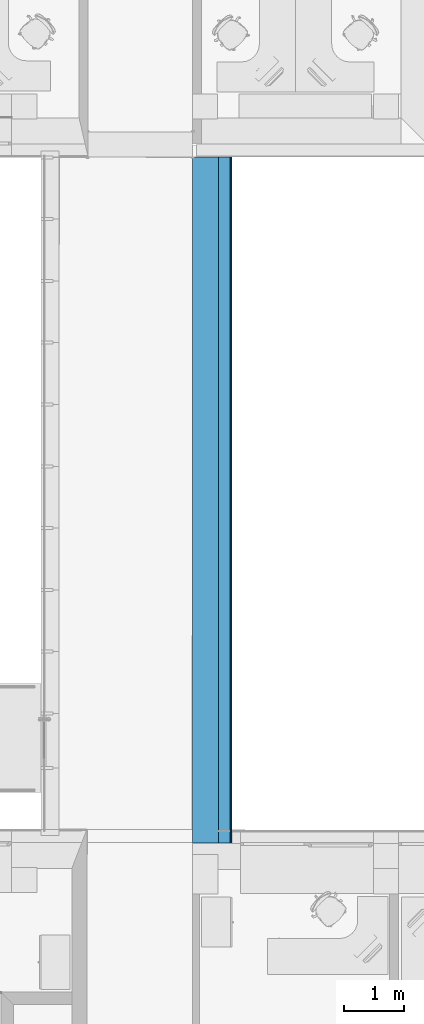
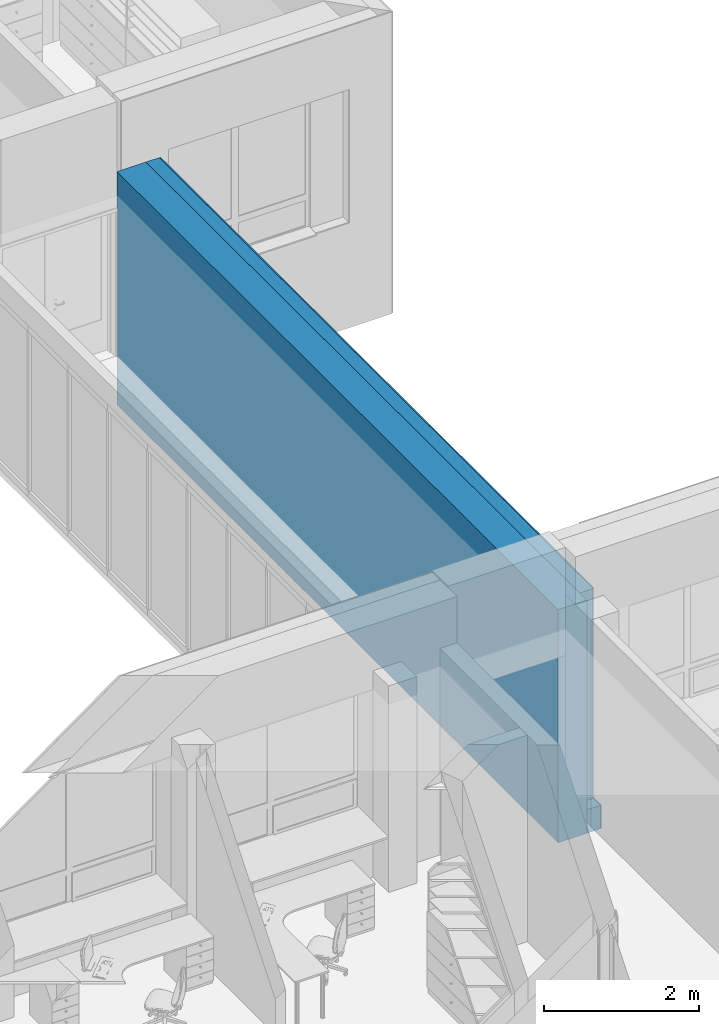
# One storey, part 94 of 194: 3 building element parts, 1 element without a shape of its own.
"""IFC2X3 building model written with IfcOpenShell, lengths in millimetres."""

from ifc_helpers import new_model, entity, si_unit, converted_unit, derived_unit, money_unit, direction, frame, origin_with_axes, place, context, subcontext, project, spatial, polyline, outline, extrude, boolean, faceted_brep, material, type_object, element, aggregate, save


model = new_model("IFC2X3")

# Units and contexts
model_context = context("Model", 3, precision=1e-05, world=origin_with_axes(), true_north=direction((0.0, 1.0)))
body_context = subcontext(model_context, "Body", "Model", "MODEL_VIEW")
ifc_project = project(units=[si_unit("LENGTHUNIT", "METRE", prefix="MILLI"), si_unit("AREAUNIT", "SQUARE_METRE"), si_unit("VOLUMEUNIT", "CUBIC_METRE"), converted_unit("PLANEANGLEUNIT", "DEGREE", entity("IfcPlaneAngleMeasure", 0.0174532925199), si_unit("PLANEANGLEUNIT", "RADIAN"), dimensions=[0, 0, 0, 0, 0, 0, 0]), si_unit("SOLIDANGLEUNIT", "STERADIAN"), money_unit("EUR"), converted_unit("TIMEUNIT", "Year", entity("IfcTimeMeasure", 31556926.0), si_unit("TIMEUNIT", "SECOND"), dimensions=[0, 0, 1, 0, 0, 0, 0]), si_unit("MASSUNIT", "GRAM", prefix="KILO"), si_unit("THERMODYNAMICTEMPERATUREUNIT", "DEGREE_CELSIUS"), si_unit("LUMINOUSINTENSITYUNIT", "LUMEN"), si_unit("ENERGYUNIT", "JOULE", prefix="MEGA"), derived_unit("THERMALCONDUCTANCEUNIT", [(si_unit("POWERUNIT", "WATT"), 1), (si_unit("LENGTHUNIT", "METRE"), -1), (si_unit("THERMODYNAMICTEMPERATUREUNIT", "KELVIN"), -1)]), derived_unit("SPECIFICHEATCAPACITYUNIT", [(si_unit("ENERGYUNIT", "JOULE"), 1), (si_unit("MASSUNIT", "GRAM", prefix="KILO"), -1), (si_unit("THERMODYNAMICTEMPERATUREUNIT", "KELVIN"), -1)]), derived_unit("MASSDENSITYUNIT", [(si_unit("MASSUNIT", "GRAM", prefix="KILO"), 1), (si_unit("VOLUMEUNIT", "CUBIC_METRE"), -1)])], contexts=[model_context])

# Site, building, storey
site_placement = place(None, origin_with_axes())
site = spatial("IfcSite", under=ifc_project, at=site_placement, Name="Site", CompositionType="ELEMENT")
building_placement = place(site_placement, origin_with_axes())
building = spatial("IfcBuilding", under=site, at=building_placement, Name="Building", CompositionType="ELEMENT")
storey_placement = place(building_placement, frame((0.0, 0.0, 3000.0), z_axis=(0.0, 0.0, 1.0), x_axis=(1.0, 0.0, 0.0)))
storey = spatial("IfcBuildingStorey", under=building, at=storey_placement, Name="2 KORRUS", CompositionType="ELEMENT", Elevation=3000.0)

# Wall, building element parts
wall_type = type_object("IfcWallType", Name="VS4", PredefinedType="NOTDEFINED")
wall_placement = place(storey_placement, frame((40163.283195, 58909.2083294, -769.162035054), z_axis=(0.0, 0.0, 1.0), x_axis=(8.70104470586e-05, -0.999999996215, 0.0)))
wall = element("IfcWall", 1, at=wall_placement, inside=storey, type_object=wall_type, Name="VS4")
ifc_material_1 = material(Name="Tellis - Konstuktsioon")
building_element_part_1_placement = place(wall_placement, origin_with_axes())
building_element_part_1 = element("IfcBuildingElementPart", 2, at=building_element_part_1_placement, material=ifc_material_1, Name="Tellis - Konstuktsioon", context=body_context, shape_type="CSG", body=[
    boolean("DIFFERENCE", boolean("DIFFERENCE", boolean("DIFFERENCE", boolean("DIFFERENCE", boolean("DIFFERENCE", boolean("DIFFERENCE", extrude(outline(polyline([(-430.017710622, -430.0), (12036.9016243, -430.0), (12036.9016243, -1.13686837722e-10), (-430.017710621, -1.13686837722e-10), (-430.017710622, -430.0)])), origin_with_axes(), (0.0, 0.0, 1.0), 3669.16203505), faceted_brep([(220.143937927, -430.0, 3669.16203505), (220.181397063, -1.13686837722e-10, 3669.16203505), (-430.01771062, -2.27373675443e-10, 3669.16203505), (-430.017710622, -430.0, 3669.16203505), (220.143828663, -430.0, 3632.41181379), (220.181243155, -2.27373675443e-10, 3617.39588291), (220.181243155, -2.27373675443e-10, 0.0), (-430.01771062, -2.27373675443e-10, 0.0), (-430.017710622, -430.0, 0.0), (220.143828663, -430.0, 0.0)], [[[0, 1, 2, 3]], [[1, 0, 4, 5]], [[5, 6, 7, 2, 1]], [[2, 7, 8, 3]], [[4, 0, 3, 8, 9]], [[9, 6, 5, 4]], [[6, 9, 8, 7]]])), faceted_brep([(11592.9751777, -1.13686837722e-10, 3617.32747269), (11592.9753318, -1.13686837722e-10, 3669.16203505), (12036.9016243, -2.27373675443e-10, 3669.16203505), (12036.9016243, -2.27373675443e-10, 0.0), (11592.9751777, -1.13686837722e-10, 0.0), (11592.9378726, -430.0, 3669.16203505), (11592.9377632, -430.0, 3632.34340357), (12036.9016243, -430.0, 3669.16203505), (12036.9016243, -430.0, 0.0), (11592.9377632, -430.0, 0.0)], [[[0, 1, 2, 3, 4]], [[5, 1, 0, 6]], [[1, 5, 7, 2]], [[7, 8, 3, 2]], [[9, 4, 3, 8]], [[0, 4, 9, 6]], [[6, 9, 8, 7, 5]]])), faceted_brep([(220.181397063, -1.13686837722e-10, 3669.16203505), (220.198819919, 200.0, 3669.16203505), (-430.017710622, 200.0, 3669.16203505), (-430.01771062, -2.27373675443e-10, 3669.16203505), (220.181243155, -2.27373675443e-10, 3617.39588291), (220.198645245, 200.0, 3610.41172901), (220.198645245, 200.0, 0.0), (-430.017710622, 200.0, 0.0), (-430.01771062, -2.27373675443e-10, 0.0), (220.181243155, -2.27373675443e-10, 0.0)], [[[0, 1, 2, 3]], [[1, 0, 4, 5]], [[5, 6, 7, 2, 1]], [[2, 7, 8, 3]], [[4, 0, 3, 8, 9]], [[9, 6, 5, 4]], [[6, 9, 8, 7]]])), faceted_brep([(11406.8998817, 200.0, 369.162035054), (11406.8998817, 200.0, 3669.16203505), (12036.9016243, 200.0, 3669.16203505), (12036.9016243, 200.0, 0.0), (11592.9925797, 200.0, 0.0), (11592.9925797, 200.0, 369.162035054), (11406.8824796, -1.13686837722e-10, 3669.16203505), (11406.8824796, -1.13686837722e-10, 369.162035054), (12036.9016243, -2.27373675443e-10, 3669.16203505), (12036.9016243, -2.27373675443e-10, 0.0), (11592.9751777, -1.13686837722e-10, 0.0), (11592.9751777, -1.13686837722e-10, 369.162035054)], [[[0, 1, 2, 3, 4, 5]], [[6, 1, 0, 7]], [[1, 6, 8, 2]], [[8, 9, 3, 2]], [[10, 4, 3, 9]], [[4, 10, 11, 5]], [[11, 7, 0, 5]], [[11, 10, 9, 8, 6, 7]]])), faceted_brep([(220.198819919, 200.0, 3669.16203505), (220.200562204, 220.0, 3669.16203505), (-430.017710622, 220.0, 3669.16203505), (-430.017710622, 200.0, 3669.16203505), (220.200385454, 220.0, 3609.71331362), (220.198645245, 200.0, 3610.41172901), (220.200385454, 220.0, 0.0), (-430.017710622, 220.0, 0.0), (-430.017710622, 200.0, 0.0), (220.198645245, 200.0, 0.0)], [[[0, 1, 2, 3]], [[4, 1, 0, 5]], [[4, 6, 7, 2, 1]], [[2, 7, 8, 3]], [[5, 0, 3, 8, 9]], [[6, 4, 5, 9]], [[6, 9, 8, 7]]])), faceted_brep([(11386.9016219, 220.0, 369.162035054), (11386.9016219, 220.0, 3669.16203505), (12036.9016243, 220.0, 3669.16203505), (12036.9016243, 220.0, 0.0), (11592.99432, 220.0, 0.0), (11592.99432, 220.0, 369.162035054), (11386.8998816, 200.0, 3669.16203505), (11386.8998816, 200.0, 369.162035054), (12036.9016243, 200.0, 3669.16203505), (12036.9016243, 200.0, 0.0), (11592.9925797, 200.0, 0.0), (11592.9925797, 200.0, 369.162035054)], [[[0, 1, 2, 3, 4, 5]], [[6, 1, 0, 7]], [[1, 6, 8, 2]], [[8, 9, 3, 2]], [[10, 4, 3, 9]], [[5, 4, 10, 11]], [[0, 5, 11, 7]], [[11, 10, 9, 8, 6, 7]]])),
])
ifc_material_2 = material(Name="Soojustus - Plastik Kõva")
building_element_part_2_placement = place(wall_placement, origin_with_axes())
building_element_part_2 = element("IfcBuildingElementPart", 3, at=building_element_part_2_placement, material=ifc_material_2, Name="Soojustus - Plastik Kõva", context=body_context, shape_type="CSG", body=[
    boolean("DIFFERENCE", boolean("DIFFERENCE", boolean("DIFFERENCE", boolean("DIFFERENCE", boolean("DIFFERENCE", boolean("DIFFERENCE", extrude(outline(polyline([(-430.017710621, -1.13686837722e-10), (12036.9016243, -1.13686837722e-10), (12036.9016243, 200.0), (-430.017710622, 200.0), (-430.017710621, -1.13686837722e-10)])), origin_with_axes(), (0.0, 0.0, 1.0), 3669.16203505), faceted_brep([(220.143937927, -430.0, 3669.16203505), (220.181397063, -1.13686837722e-10, 3669.16203505), (-430.01771062, -2.27373675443e-10, 3669.16203505), (-430.017710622, -430.0, 3669.16203505), (220.143828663, -430.0, 3632.41181379), (220.181243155, -2.27373675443e-10, 3617.39588291), (220.181243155, -2.27373675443e-10, 0.0), (-430.01771062, -2.27373675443e-10, 0.0), (-430.017710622, -430.0, 0.0), (220.143828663, -430.0, 0.0)], [[[0, 1, 2, 3]], [[1, 0, 4, 5]], [[5, 6, 7, 2, 1]], [[2, 7, 8, 3]], [[4, 0, 3, 8, 9]], [[9, 6, 5, 4]], [[6, 9, 8, 7]]])), faceted_brep([(11592.9751777, -1.13686837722e-10, 3617.32747269), (11592.9753318, -1.13686837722e-10, 3669.16203505), (12036.9016243, -2.27373675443e-10, 3669.16203505), (12036.9016243, -2.27373675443e-10, 0.0), (11592.9751777, -1.13686837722e-10, 0.0), (11592.9378726, -430.0, 3669.16203505), (11592.9377632, -430.0, 3632.34340357), (12036.9016243, -430.0, 3669.16203505), (12036.9016243, -430.0, 0.0), (11592.9377632, -430.0, 0.0)], [[[0, 1, 2, 3, 4]], [[5, 1, 0, 6]], [[1, 5, 7, 2]], [[7, 8, 3, 2]], [[9, 4, 3, 8]], [[0, 4, 9, 6]], [[6, 9, 8, 7, 5]]])), faceted_brep([(220.181397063, -1.13686837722e-10, 3669.16203505), (220.198819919, 200.0, 3669.16203505), (-430.017710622, 200.0, 3669.16203505), (-430.01771062, -2.27373675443e-10, 3669.16203505), (220.181243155, -2.27373675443e-10, 3617.39588291), (220.198645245, 200.0, 3610.41172901), (220.198645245, 200.0, 0.0), (-430.017710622, 200.0, 0.0), (-430.01771062, -2.27373675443e-10, 0.0), (220.181243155, -2.27373675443e-10, 0.0)], [[[0, 1, 2, 3]], [[1, 0, 4, 5]], [[5, 6, 7, 2, 1]], [[2, 7, 8, 3]], [[4, 0, 3, 8, 9]], [[9, 6, 5, 4]], [[6, 9, 8, 7]]])), faceted_brep([(11406.8998817, 200.0, 369.162035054), (11406.8998817, 200.0, 3669.16203505), (12036.9016243, 200.0, 3669.16203505), (12036.9016243, 200.0, 0.0), (11592.9925797, 200.0, 0.0), (11592.9925797, 200.0, 369.162035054), (11406.8824796, -1.13686837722e-10, 3669.16203505), (11406.8824796, -1.13686837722e-10, 369.162035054), (12036.9016243, -2.27373675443e-10, 3669.16203505), (12036.9016243, -2.27373675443e-10, 0.0), (11592.9751777, -1.13686837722e-10, 0.0), (11592.9751777, -1.13686837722e-10, 369.162035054)], [[[0, 1, 2, 3, 4, 5]], [[6, 1, 0, 7]], [[1, 6, 8, 2]], [[8, 9, 3, 2]], [[10, 4, 3, 9]], [[4, 10, 11, 5]], [[11, 7, 0, 5]], [[11, 10, 9, 8, 6, 7]]])), faceted_brep([(220.198819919, 200.0, 3669.16203505), (220.200562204, 220.0, 3669.16203505), (-430.017710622, 220.0, 3669.16203505), (-430.017710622, 200.0, 3669.16203505), (220.200385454, 220.0, 3609.71331362), (220.198645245, 200.0, 3610.41172901), (220.200385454, 220.0, 0.0), (-430.017710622, 220.0, 0.0), (-430.017710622, 200.0, 0.0), (220.198645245, 200.0, 0.0)], [[[0, 1, 2, 3]], [[4, 1, 0, 5]], [[4, 6, 7, 2, 1]], [[2, 7, 8, 3]], [[5, 0, 3, 8, 9]], [[6, 4, 5, 9]], [[6, 9, 8, 7]]])), faceted_brep([(11386.9016219, 220.0, 369.162035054), (11386.9016219, 220.0, 3669.16203505), (12036.9016243, 220.0, 3669.16203505), (12036.9016243, 220.0, 0.0), (11592.99432, 220.0, 0.0), (11592.99432, 220.0, 369.162035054), (11386.8998816, 200.0, 3669.16203505), (11386.8998816, 200.0, 369.162035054), (12036.9016243, 200.0, 3669.16203505), (12036.9016243, 200.0, 0.0), (11592.9925797, 200.0, 0.0), (11592.9925797, 200.0, 369.162035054)], [[[0, 1, 2, 3, 4, 5]], [[6, 1, 0, 7]], [[1, 6, 8, 2]], [[8, 9, 3, 2]], [[10, 4, 3, 9]], [[5, 4, 10, 11]], [[0, 5, 11, 7]], [[11, 10, 9, 8, 6, 7]]])),
])
ifc_material_3 = material(Name="Tellis - Viimistlus")
building_element_part_3_placement = place(wall_placement, origin_with_axes())
building_element_part_3 = element("IfcBuildingElementPart", 4, at=building_element_part_3_placement, material=ifc_material_3, Name="Tellis - Viimistlus", context=body_context, shape_type="CSG", body=[
    boolean("DIFFERENCE", boolean("DIFFERENCE", boolean("DIFFERENCE", boolean("DIFFERENCE", boolean("DIFFERENCE", boolean("DIFFERENCE", extrude(outline(polyline([(-430.017710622, 200.0), (12036.9016243, 200.0), (12036.9016243, 220.0), (-430.017710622, 220.0), (-430.017710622, 200.0)])), origin_with_axes(), (0.0, 0.0, 1.0), 3669.16203505), faceted_brep([(220.143937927, -430.0, 3669.16203505), (220.181397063, -1.13686837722e-10, 3669.16203505), (-430.01771062, -2.27373675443e-10, 3669.16203505), (-430.017710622, -430.0, 3669.16203505), (220.143828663, -430.0, 3632.41181379), (220.181243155, -2.27373675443e-10, 3617.39588291), (220.181243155, -2.27373675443e-10, 0.0), (-430.01771062, -2.27373675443e-10, 0.0), (-430.017710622, -430.0, 0.0), (220.143828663, -430.0, 0.0)], [[[0, 1, 2, 3]], [[1, 0, 4, 5]], [[5, 6, 7, 2, 1]], [[2, 7, 8, 3]], [[4, 0, 3, 8, 9]], [[9, 6, 5, 4]], [[6, 9, 8, 7]]])), faceted_brep([(11592.9751777, -1.13686837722e-10, 3617.32747269), (11592.9753318, -1.13686837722e-10, 3669.16203505), (12036.9016243, -2.27373675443e-10, 3669.16203505), (12036.9016243, -2.27373675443e-10, 0.0), (11592.9751777, -1.13686837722e-10, 0.0), (11592.9378726, -430.0, 3669.16203505), (11592.9377632, -430.0, 3632.34340357), (12036.9016243, -430.0, 3669.16203505), (12036.9016243, -430.0, 0.0), (11592.9377632, -430.0, 0.0)], [[[0, 1, 2, 3, 4]], [[5, 1, 0, 6]], [[1, 5, 7, 2]], [[7, 8, 3, 2]], [[9, 4, 3, 8]], [[0, 4, 9, 6]], [[6, 9, 8, 7, 5]]])), faceted_brep([(220.181397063, -1.13686837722e-10, 3669.16203505), (220.198819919, 200.0, 3669.16203505), (-430.017710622, 200.0, 3669.16203505), (-430.01771062, -2.27373675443e-10, 3669.16203505), (220.181243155, -2.27373675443e-10, 3617.39588291), (220.198645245, 200.0, 3610.41172901), (220.198645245, 200.0, 0.0), (-430.017710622, 200.0, 0.0), (-430.01771062, -2.27373675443e-10, 0.0), (220.181243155, -2.27373675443e-10, 0.0)], [[[0, 1, 2, 3]], [[1, 0, 4, 5]], [[5, 6, 7, 2, 1]], [[2, 7, 8, 3]], [[4, 0, 3, 8, 9]], [[9, 6, 5, 4]], [[6, 9, 8, 7]]])), faceted_brep([(11406.8998817, 200.0, 369.162035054), (11406.8998817, 200.0, 3669.16203505), (12036.9016243, 200.0, 3669.16203505), (12036.9016243, 200.0, 0.0), (11592.9925797, 200.0, 0.0), (11592.9925797, 200.0, 369.162035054), (11406.8824796, -1.13686837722e-10, 3669.16203505), (11406.8824796, -1.13686837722e-10, 369.162035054), (12036.9016243, -2.27373675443e-10, 3669.16203505), (12036.9016243, -2.27373675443e-10, 0.0), (11592.9751777, -1.13686837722e-10, 0.0), (11592.9751777, -1.13686837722e-10, 369.162035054)], [[[0, 1, 2, 3, 4, 5]], [[6, 1, 0, 7]], [[1, 6, 8, 2]], [[8, 9, 3, 2]], [[10, 4, 3, 9]], [[4, 10, 11, 5]], [[11, 7, 0, 5]], [[11, 10, 9, 8, 6, 7]]])), faceted_brep([(220.198819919, 200.0, 3669.16203505), (220.200562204, 220.0, 3669.16203505), (-430.017710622, 220.0, 3669.16203505), (-430.017710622, 200.0, 3669.16203505), (220.200385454, 220.0, 3609.71331362), (220.198645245, 200.0, 3610.41172901), (220.200385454, 220.0, 0.0), (-430.017710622, 220.0, 0.0), (-430.017710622, 200.0, 0.0), (220.198645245, 200.0, 0.0)], [[[0, 1, 2, 3]], [[4, 1, 0, 5]], [[4, 6, 7, 2, 1]], [[2, 7, 8, 3]], [[5, 0, 3, 8, 9]], [[6, 4, 5, 9]], [[6, 9, 8, 7]]])), faceted_brep([(11386.9016219, 220.0, 369.162035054), (11386.9016219, 220.0, 3669.16203505), (12036.9016243, 220.0, 3669.16203505), (12036.9016243, 220.0, 0.0), (11592.99432, 220.0, 0.0), (11592.99432, 220.0, 369.162035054), (11386.8998816, 200.0, 3669.16203505), (11386.8998816, 200.0, 369.162035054), (12036.9016243, 200.0, 3669.16203505), (12036.9016243, 200.0, 0.0), (11592.9925797, 200.0, 0.0), (11592.9925797, 200.0, 369.162035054)], [[[0, 1, 2, 3, 4, 5]], [[6, 1, 0, 7]], [[1, 6, 8, 2]], [[8, 9, 3, 2]], [[10, 4, 3, 9]], [[5, 4, 10, 11]], [[0, 5, 11, 7]], [[11, 10, 9, 8, 6, 7]]])),
])
aggregate(wall, [building_element_part_1, building_element_part_2, building_element_part_3])

save(model, "model.ifc")
